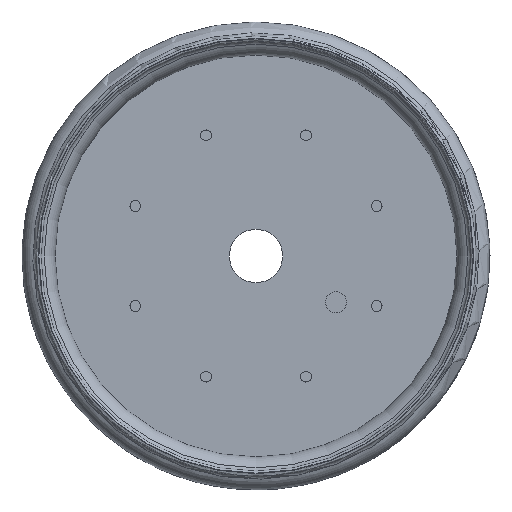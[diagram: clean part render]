
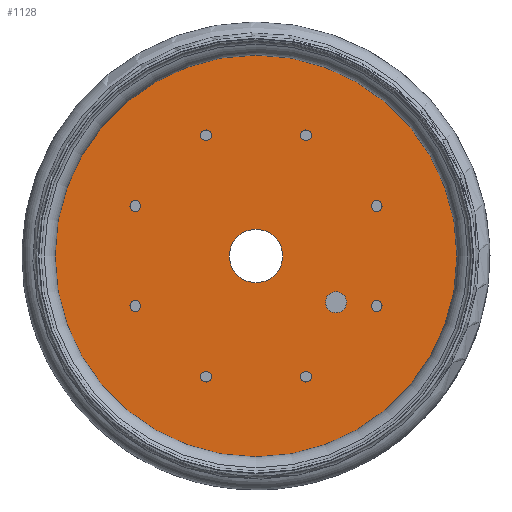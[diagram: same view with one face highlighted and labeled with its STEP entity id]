
A CAD part, front view. The second image highlights one B-rep face of the part: STEP entity #1128.
In plain terms, the highlighted planar face has unit normal (0, -1, 0).
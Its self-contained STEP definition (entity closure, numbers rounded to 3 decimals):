
#2 = AXIS2_PLACEMENT_3D ( 'NONE', #2672, #3798, #2965 ) ;
#6 = VERTEX_POINT ( 'NONE', #1198 ) ;
#74 = CARTESIAN_POINT ( 'NONE',  ( 55.433, -14.45, -22.961 ) ) ;
#76 = EDGE_CURVE ( 'NONE', #3770, #3770, #3651, .T. ) ;
#98 = DIRECTION ( 'NONE',  ( 0., 1., 0. ) ) ;
#155 = ORIENTED_EDGE ( 'NONE', *, *, #2017, .F. ) ;
#168 = DIRECTION ( 'NONE',  ( 0., 0., -1. ) ) ;
#173 = EDGE_LOOP ( 'NONE', ( #1742 ) ) ;
#196 = EDGE_CURVE ( 'NONE', #2940, #2940, #1610, .T. ) ;
#216 = AXIS2_PLACEMENT_3D ( 'NONE', #1653, #2208, #3713 ) ;
#272 = VERTEX_POINT ( 'NONE', #1702 ) ;
#307 = AXIS2_PLACEMENT_3D ( 'NONE', #74, #1648, #437 ) ;
#310 = AXIS2_PLACEMENT_3D ( 'NONE', #2084, #1206, #2393 ) ;
#345 = EDGE_CURVE ( 'NONE', #829, #829, #532, .T. ) ;
#358 = ORIENTED_EDGE ( 'NONE', *, *, #1238, .F. ) ;
#437 = DIRECTION ( 'NONE',  ( 0., 0., -1. ) ) ;
#464 = EDGE_LOOP ( 'NONE', ( #155 ) ) ;
#484 = CIRCLE ( 'NONE', #2666, 2.459 ) ;
#502 = CARTESIAN_POINT ( 'NONE',  ( 22.961, -14.45, -57.891 ) ) ;
#532 = CIRCLE ( 'NONE', #2412, 2.458 ) ;
#592 = VERTEX_POINT ( 'NONE', #861 ) ;
#605 = CARTESIAN_POINT ( 'NONE',  ( 0., -14.45, 0. ) ) ;
#660 = EDGE_LOOP ( 'NONE', ( #2157 ) ) ;
#714 = CIRCLE ( 'NONE', #2031, 92.334 ) ;
#782 = DIRECTION ( 'NONE',  ( 0., -1., 0. ) ) ;
#795 = EDGE_CURVE ( 'NONE', #3239, #3239, #938, .T. ) ;
#813 = DIRECTION ( 'NONE',  ( 0., 0., -1. ) ) ;
#814 = FACE_BOUND ( 'NONE', #464, .T. ) ;
#829 = VERTEX_POINT ( 'NONE', #2602 ) ;
#844 = AXIS2_PLACEMENT_3D ( 'NONE', #1222, #1882, #3061 ) ;
#861 = CARTESIAN_POINT ( 'NONE',  ( 22.961, -14.45, 52.974 ) ) ;
#930 = ORIENTED_EDGE ( 'NONE', *, *, #2862, .F. ) ;
#938 = CIRCLE ( 'NONE', #1003, 2.459 ) ;
#1001 = EDGE_CURVE ( 'NONE', #1442, #1442, #1364, .T. ) ;
#1003 = AXIS2_PLACEMENT_3D ( 'NONE', #1731, #782, #2617 ) ;
#1025 = ORIENTED_EDGE ( 'NONE', *, *, #1389, .F. ) ;
#1128 = ADVANCED_FACE ( 'NONE', ( #3494, #3512, #2009, #3191, #1351, #1202, #814, #2899, #2538, #2390, #1781 ), #2649, .F. ) ;
#1194 = DIRECTION ( 'NONE',  ( 0., -1., 0. ) ) ;
#1198 = CARTESIAN_POINT ( 'NONE',  ( -55.433, -14.45, -25.42 ) ) ;
#1202 = FACE_BOUND ( 'NONE', #1204, .T. ) ;
#1204 = EDGE_LOOP ( 'NONE', ( #1762 ) ) ;
#1206 = DIRECTION ( 'NONE',  ( 0., -1., 0. ) ) ;
#1222 = CARTESIAN_POINT ( 'NONE',  ( 22.961, -14.45, -55.433 ) ) ;
#1238 = EDGE_CURVE ( 'NONE', #2074, #2074, #714, .T. ) ;
#1314 = EDGE_CURVE ( 'NONE', #3172, #3172, #2523, .T. ) ;
#1351 = FACE_BOUND ( 'NONE', #2810, .T. ) ;
#1364 = CIRCLE ( 'NONE', #307, 2.459 ) ;
#1366 = EDGE_LOOP ( 'NONE', ( #2875 ) ) ;
#1389 = EDGE_CURVE ( 'NONE', #6, #6, #2263, .T. ) ;
#1442 = VERTEX_POINT ( 'NONE', #2874 ) ;
#1524 = DIRECTION ( 'NONE',  ( 0., 0., 1. ) ) ;
#1610 = CIRCLE ( 'NONE', #216, 4.85 ) ;
#1643 = ORIENTED_EDGE ( 'NONE', *, *, #76, .T. ) ;
#1645 = CARTESIAN_POINT ( 'NONE',  ( 55.433, -14.45, 22.961 ) ) ;
#1648 = DIRECTION ( 'NONE',  ( 0., -1., 0. ) ) ;
#1653 = CARTESIAN_POINT ( 'NONE',  ( 36.77, -14.45, -21.213 ) ) ;
#1702 = CARTESIAN_POINT ( 'NONE',  ( -22.961, -14.45, -57.891 ) ) ;
#1724 = EDGE_LOOP ( 'NONE', ( #1643 ) ) ;
#1731 = CARTESIAN_POINT ( 'NONE',  ( -55.433, -14.45, 22.961 ) ) ;
#1742 = ORIENTED_EDGE ( 'NONE', *, *, #345, .F. ) ;
#1762 = ORIENTED_EDGE ( 'NONE', *, *, #1001, .F. ) ;
#1776 = CARTESIAN_POINT ( 'NONE',  ( 0., -14.45, 92.334 ) ) ;
#1781 = FACE_OUTER_BOUND ( 'NONE', #3318, .T. ) ;
#1797 = DIRECTION ( 'NONE',  ( 0., 1., 0. ) ) ;
#1876 = CIRCLE ( 'NONE', #2191, 2.459 ) ;
#1882 = DIRECTION ( 'NONE',  ( 0., -1., 0. ) ) ;
#1949 = CARTESIAN_POINT ( 'NONE',  ( -55.433, -14.45, -22.961 ) ) ;
#1966 = AXIS2_PLACEMENT_3D ( 'NONE', #605, #1797, #1524 ) ;
#1974 = DIRECTION ( 'NONE',  ( 0., -1., 0. ) ) ;
#2001 = DIRECTION ( 'NONE',  ( 0., 0., -1. ) ) ;
#2009 = FACE_BOUND ( 'NONE', #3163, .T. ) ;
#2017 = EDGE_CURVE ( 'NONE', #3270, #3270, #484, .T. ) ;
#2020 = ORIENTED_EDGE ( 'NONE', *, *, #1314, .F. ) ;
#2025 = CARTESIAN_POINT ( 'NONE',  ( -55.433, -14.45, 20.503 ) ) ;
#2031 = AXIS2_PLACEMENT_3D ( 'NONE', #2724, #98, #2691 ) ;
#2074 = VERTEX_POINT ( 'NONE', #1776 ) ;
#2084 = CARTESIAN_POINT ( 'NONE',  ( 22.961, -14.45, 55.433 ) ) ;
#2157 = ORIENTED_EDGE ( 'NONE', *, *, #795, .F. ) ;
#2158 = EDGE_LOOP ( 'NONE', ( #2646 ) ) ;
#2191 = AXIS2_PLACEMENT_3D ( 'NONE', #3206, #1194, #3807 ) ;
#2199 = EDGE_LOOP ( 'NONE', ( #930 ) ) ;
#2208 = DIRECTION ( 'NONE',  ( 0., -1., 0. ) ) ;
#2263 = CIRCLE ( 'NONE', #2446, 2.459 ) ;
#2390 = FACE_BOUND ( 'NONE', #1366, .T. ) ;
#2393 = DIRECTION ( 'NONE',  ( 0., 0., -1. ) ) ;
#2412 = AXIS2_PLACEMENT_3D ( 'NONE', #3523, #2936, #2001 ) ;
#2446 = AXIS2_PLACEMENT_3D ( 'NONE', #1949, #3432, #168 ) ;
#2523 = CIRCLE ( 'NONE', #844, 2.459 ) ;
#2538 = FACE_BOUND ( 'NONE', #173, .T. ) ;
#2602 = CARTESIAN_POINT ( 'NONE',  ( -22.961, -14.45, 52.974 ) ) ;
#2617 = DIRECTION ( 'NONE',  ( 0., 0., -1. ) ) ;
#2624 = CARTESIAN_POINT ( 'NONE',  ( 0., -14.45, 12.25 ) ) ;
#2646 = ORIENTED_EDGE ( 'NONE', *, *, #3279, .F. ) ;
#2649 = PLANE ( 'NONE',  #2 ) ;
#2666 = AXIS2_PLACEMENT_3D ( 'NONE', #1645, #1974, #813 ) ;
#2672 = CARTESIAN_POINT ( 'NONE',  ( 0., -14.45, 92.334 ) ) ;
#2691 = DIRECTION ( 'NONE',  ( 0., 0., 1. ) ) ;
#2724 = CARTESIAN_POINT ( 'NONE',  ( 0., -14.45, 0. ) ) ;
#2810 = EDGE_LOOP ( 'NONE', ( #2020 ) ) ;
#2862 = EDGE_CURVE ( 'NONE', #592, #592, #3052, .T. ) ;
#2874 = CARTESIAN_POINT ( 'NONE',  ( 55.433, -14.45, -25.42 ) ) ;
#2875 = ORIENTED_EDGE ( 'NONE', *, *, #196, .F. ) ;
#2899 = FACE_BOUND ( 'NONE', #2199, .T. ) ;
#2936 = DIRECTION ( 'NONE',  ( 0., -1., 0. ) ) ;
#2940 = VERTEX_POINT ( 'NONE', #3212 ) ;
#2965 = DIRECTION ( 'NONE',  ( 0., 0., 1. ) ) ;
#3052 = CIRCLE ( 'NONE', #310, 2.459 ) ;
#3061 = DIRECTION ( 'NONE',  ( 0., 0., -1. ) ) ;
#3163 = EDGE_LOOP ( 'NONE', ( #1025 ) ) ;
#3172 = VERTEX_POINT ( 'NONE', #502 ) ;
#3191 = FACE_BOUND ( 'NONE', #2158, .T. ) ;
#3206 = CARTESIAN_POINT ( 'NONE',  ( -22.961, -14.45, -55.433 ) ) ;
#3212 = CARTESIAN_POINT ( 'NONE',  ( 36.77, -14.45, -26.063 ) ) ;
#3239 = VERTEX_POINT ( 'NONE', #2025 ) ;
#3270 = VERTEX_POINT ( 'NONE', #3780 ) ;
#3279 = EDGE_CURVE ( 'NONE', #272, #272, #1876, .T. ) ;
#3318 = EDGE_LOOP ( 'NONE', ( #358 ) ) ;
#3432 = DIRECTION ( 'NONE',  ( 0., -1., 0. ) ) ;
#3494 = FACE_BOUND ( 'NONE', #1724, .T. ) ;
#3512 = FACE_BOUND ( 'NONE', #660, .T. ) ;
#3523 = CARTESIAN_POINT ( 'NONE',  ( -22.961, -14.45, 55.433 ) ) ;
#3651 = CIRCLE ( 'NONE', #1966, 12.25 ) ;
#3713 = DIRECTION ( 'NONE',  ( 0., 0., -1. ) ) ;
#3770 = VERTEX_POINT ( 'NONE', #2624 ) ;
#3780 = CARTESIAN_POINT ( 'NONE',  ( 55.433, -14.45, 20.503 ) ) ;
#3798 = DIRECTION ( 'NONE',  ( 0., 1., 0. ) ) ;
#3807 = DIRECTION ( 'NONE',  ( 0., 0., -1. ) ) ;
